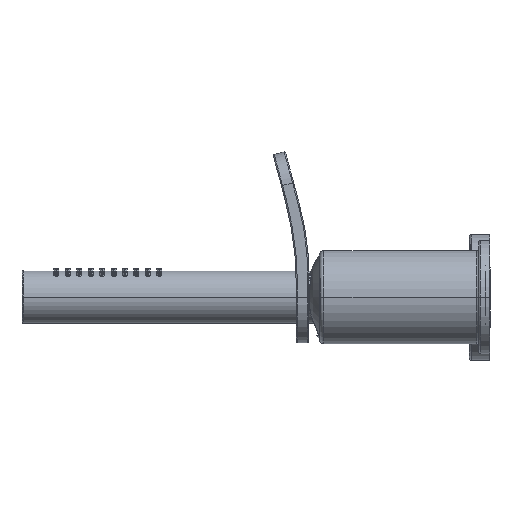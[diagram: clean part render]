
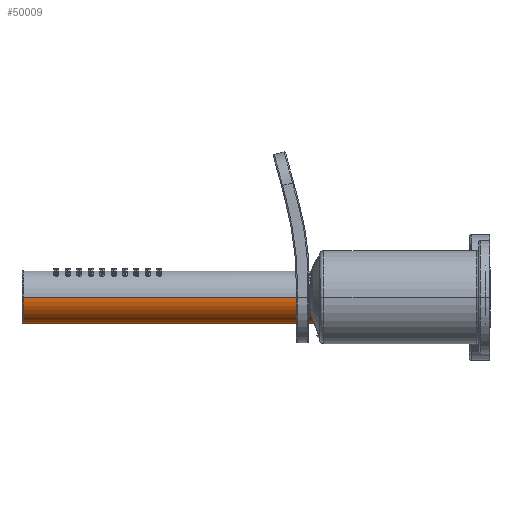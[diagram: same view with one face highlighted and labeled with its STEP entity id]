
A CAD part, left-side view. The second image highlights one B-rep face of the part: STEP entity #50009.
In plain terms, the highlighted cylindrical face has radius 11.5 mm (diameter 23 mm), a partial arc.
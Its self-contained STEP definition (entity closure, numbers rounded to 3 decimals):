
#41389=DIRECTION('',(0.,1.,0.));
#41390=VECTOR('',#41389,186.5);
#41391=CARTESIAN_POINT('',(-11.5,17.5,0.));
#41392=LINE('',#41391,#41390);
#43453=CARTESIAN_POINT('',(0.,204.,0.));
#43454=DIRECTION('',(0.,1.,0.));
#43455=DIRECTION('',(1.,0.,0.));
#43456=AXIS2_PLACEMENT_3D('',#43453,#43454,#43455);
#43458=DIRECTION('',(0.,1.,0.));
#43459=VECTOR('',#43458,186.5);
#43460=CARTESIAN_POINT('',(11.5,17.5,0.));
#43461=LINE('',#43460,#43459);
#43467=CARTESIAN_POINT('',(0.,17.5,0.));
#43468=DIRECTION('',(0.,1.,0.));
#43469=DIRECTION('',(1.,0.,0.));
#43470=AXIS2_PLACEMENT_3D('',#43467,#43468,#43469);
#49062=CARTESIAN_POINT('',(-11.5,17.5,0.));
#49063=CARTESIAN_POINT('',(11.5,17.5,0.));
#49064=VERTEX_POINT('',#49062);
#49065=VERTEX_POINT('',#49063);
#49572=CARTESIAN_POINT('',(11.5,204.,0.));
#49573=CARTESIAN_POINT('',(-11.5,204.,0.));
#49574=VERTEX_POINT('',#49572);
#49575=VERTEX_POINT('',#49573);
#49997=CARTESIAN_POINT('',(0.,17.5,0.));
#49998=DIRECTION('',(0.,1.,0.));
#49999=DIRECTION('',(-1.,0.,0.));
#50000=AXIS2_PLACEMENT_3D('',#49997,#49998,#49999);
#50001=CYLINDRICAL_SURFACE('',#50000,11.5);
#50002=ORIENTED_EDGE('',*,*,#49991,.T.);
#50003=ORIENTED_EDGE('',*,*,#49714,.F.);
#50005=ORIENTED_EDGE('',*,*,#50004,.F.);
#50006=ORIENTED_EDGE('',*,*,#49710,.T.);
#50007=EDGE_LOOP('',(#50002,#50003,#50005,#50006));
#50008=FACE_OUTER_BOUND('',#50007,.F.);
#50009=ADVANCED_FACE('',(#50008),#50001,.T.);
#43457=CIRCLE('',#43456,11.5);
#43471=CIRCLE('',#43470,11.5);
#49710=EDGE_CURVE('',#49065,#49574,#43461,.T.);
#49714=EDGE_CURVE('',#49064,#49575,#41392,.T.);
#49991=EDGE_CURVE('',#49574,#49575,#43457,.T.);
#50004=EDGE_CURVE('',#49065,#49064,#43471,.T.);
